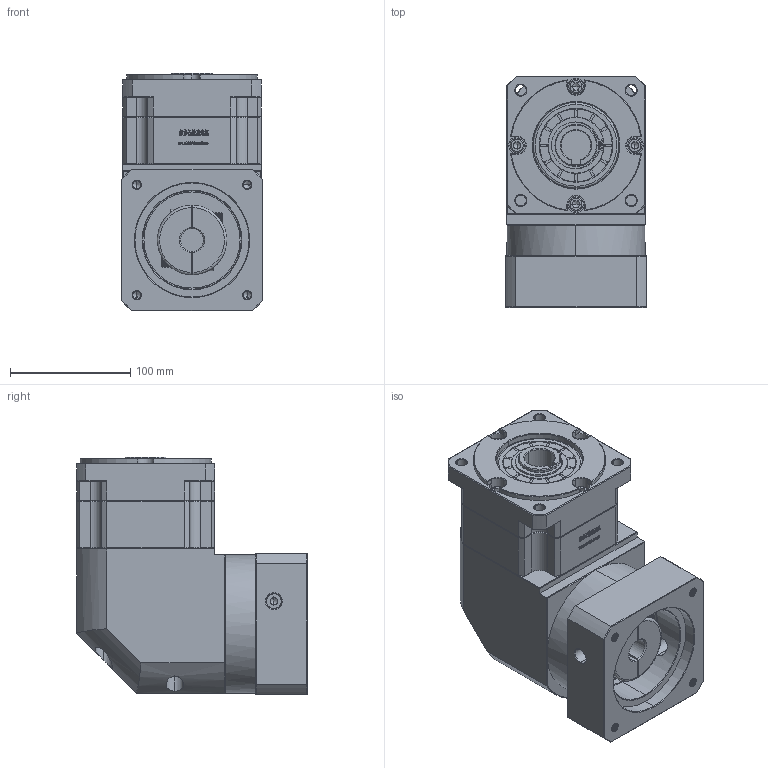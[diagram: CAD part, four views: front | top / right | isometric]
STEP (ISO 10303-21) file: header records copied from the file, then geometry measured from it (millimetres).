
FILE_DESCRIPTION (( 'STEP AP214' ), '1' );
FILE_NAME ('ZBR115A-K25-L1-19-95-130-M8.step', '2023-03-03T05:05:15', ( '' ), ( 'Microsoft' ), 'SwSTEP 2.0', 'SolidWorks 2016', '' );
FILE_SCHEMA (( 'AUTOMOTIVE_DESIGN' ));
Length unit declared in the file: millimetre
Products named in the file (1): ZBR115A-K25-L1-19-95-130-M8
Bounding box: 118 x 192.4 x 198 mm (x, y, z)
Volume: 2917750.9 mm3; surface area: 244592.4 mm2
Topology: 6 solids, 6 shells, 2925 faces, 7775 edges, 4996 vertices
Faces by surface type: plane 1552, bspline 597, cylinder 406, cone 362, torus 8
Entity records: 156386 total; most frequent: CARTESIAN_POINT 56122, ORIENTED_EDGE 15494, DIRECTION 11763, EDGE_CURVE 7747, LINE 5253, VECTOR 5253, VERTEX_POINT 4996, AXIS2_PLACEMENT_3D 3255
